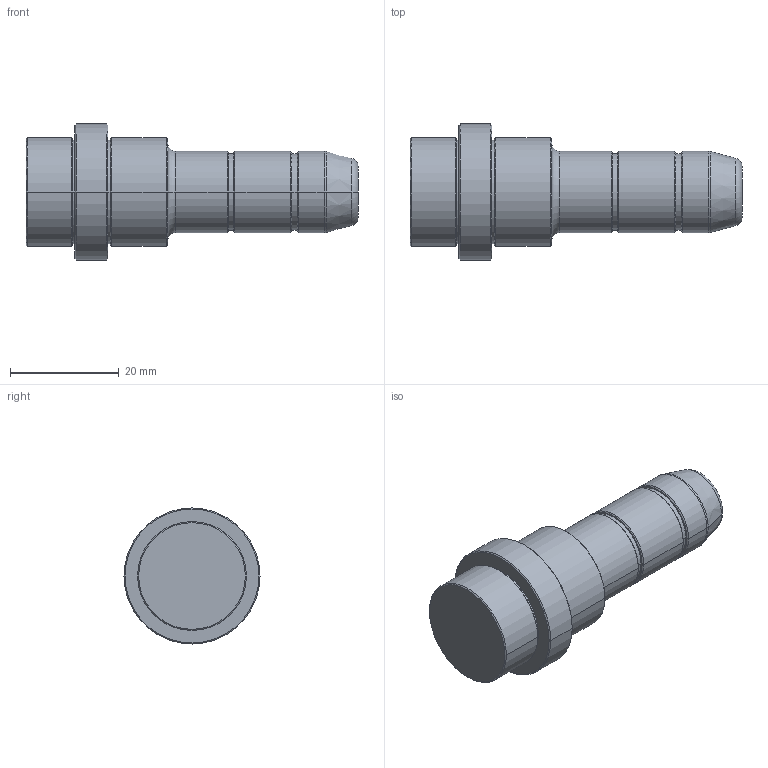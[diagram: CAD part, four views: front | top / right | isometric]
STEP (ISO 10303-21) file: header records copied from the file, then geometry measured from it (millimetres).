
FILE_DESCRIPTION (( 'STEP AP214' ), '1' );
FILE_NAME ('R02_017x15x035.STEP', '2014-12-09T12:13:26', ( '' ), ( '' ), 'SwSTEP 2.0', 'SolidWorks 2014', '' );
FILE_SCHEMA (( 'AUTOMOTIVE_DESIGN' ));
Length unit declared in the file: millimetre
Products named in the file (1): R02_017x15x035
Bounding box: 61 x 25 x 25 mm (x, y, z)
Volume: 15128.9 mm3; surface area: 4361 mm2
Topology: 1 solids, 1 shells, 59 faces, 116 edges, 68 vertices
Faces by surface type: cone 22, cylinder 20, plane 11, torus 6
Entity records: 1686 total; most frequent: DIRECTION 310, CARTESIAN_POINT 244, ORIENTED_EDGE 232, AXIS2_PLACEMENT_3D 134, EDGE_CURVE 116, CIRCLE 74, EDGE_LOOP 68, VERTEX_POINT 68
